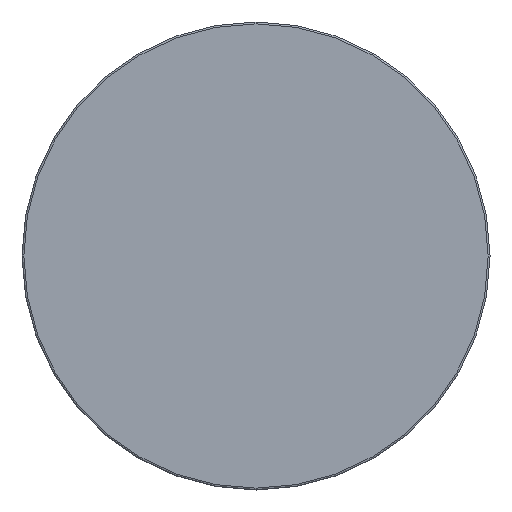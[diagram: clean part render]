
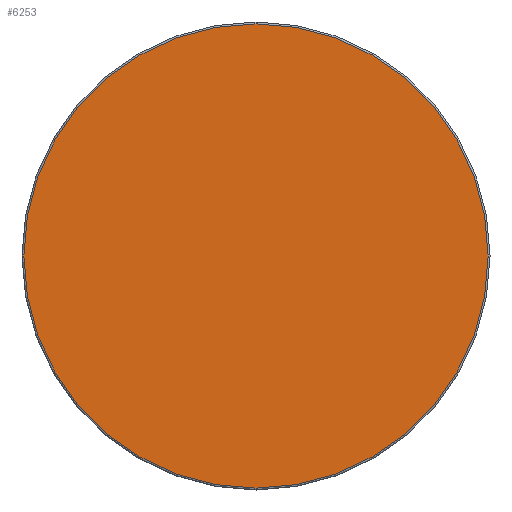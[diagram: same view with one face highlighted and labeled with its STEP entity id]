
A CAD part, front view. The second image highlights one B-rep face of the part: STEP entity #6253.
In plain terms, the highlighted planar face has unit normal (0, -1, 0).
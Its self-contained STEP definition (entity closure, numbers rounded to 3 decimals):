
#599 = AXIS2_PLACEMENT_3D ( 'NONE', #19022, #19027, #19028 ) ;
#6060 = ORIENTED_EDGE ( 'NONE', *, *, #18473, .T. ) ;
#6062 = ORIENTED_EDGE ( 'NONE', *, *, #18340, .T. ) ;
#6253 = ADVANCED_FACE ( 'NONE', ( #21660 ), #19023, .F. ) ;
#6477 = EDGE_LOOP ( 'NONE', ( #6060, #6062 ) ) ;
#6961 = AXIS2_PLACEMENT_3D ( 'NONE', #13033, #13034, #13035 ) ;
#6984 = AXIS2_PLACEMENT_3D ( 'NONE', #13991, #13992, #13993 ) ;
#7367 = CIRCLE ( 'NONE', #6961, 124.372 ) ;
#7512 = CIRCLE ( 'NONE', #6984, 124.372 ) ;
#13033 = CARTESIAN_POINT ( 'NONE',  ( 0., -937.018, 0. ) ) ;
#13034 = DIRECTION ( 'NONE',  ( 0., -1., 0. ) ) ;
#13035 = DIRECTION ( 'NONE',  ( 0., 0., 1. ) ) ;
#13991 = CARTESIAN_POINT ( 'NONE',  ( 0., -937.018, 0. ) ) ;
#13992 = DIRECTION ( 'NONE',  ( 0., -1., 0. ) ) ;
#13993 = DIRECTION ( 'NONE',  ( 0., 0., 1. ) ) ;
#16618 = CARTESIAN_POINT ( 'NONE',  ( 0., -937.018, -124.372 ) ) ;
#16919 = CARTESIAN_POINT ( 'NONE',  ( 0., -937.018, 124.372 ) ) ;
#18340 = EDGE_CURVE ( 'NONE', #22949, #22951, #7367, .T. ) ;
#18473 = EDGE_CURVE ( 'NONE', #22951, #22949, #7512, .T. ) ;
#19022 = CARTESIAN_POINT ( 'NONE',  ( 125.375, -937.018, 0. ) ) ;
#19023 = PLANE ( 'NONE',  #599 ) ;
#19027 = DIRECTION ( 'NONE',  ( 0., 1., 0. ) ) ;
#19028 = DIRECTION ( 'NONE',  ( 0., 0., 1. ) ) ;
#21660 = FACE_OUTER_BOUND ( 'NONE', #6477, .T. ) ;
#22949 = VERTEX_POINT ( 'NONE', #16618 ) ;
#22951 = VERTEX_POINT ( 'NONE', #16919 ) ;
